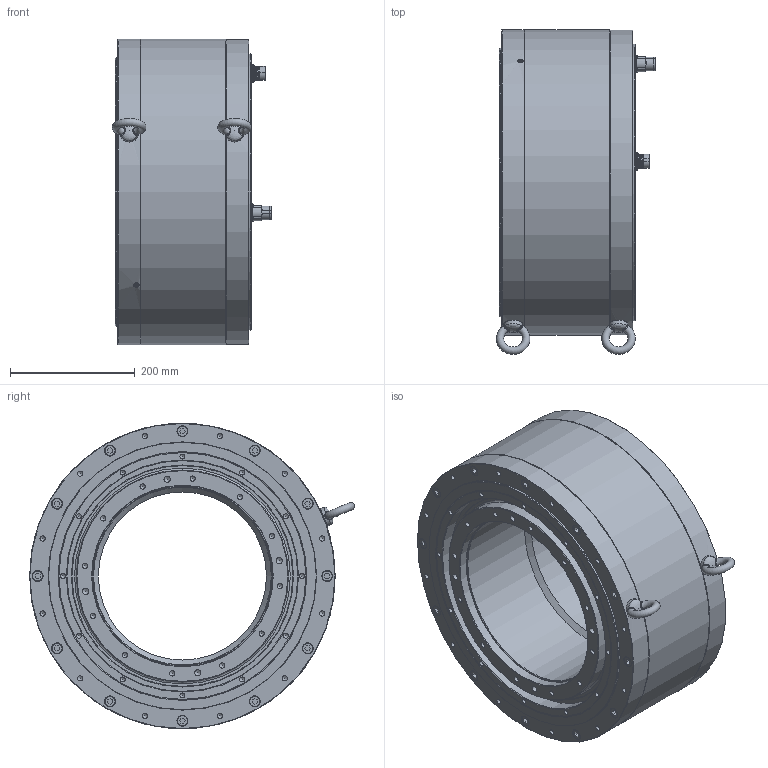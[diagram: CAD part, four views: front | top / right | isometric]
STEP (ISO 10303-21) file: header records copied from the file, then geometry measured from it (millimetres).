
FILE_DESCRIPTION( ( 'Unknown' ), '1' );
FILE_NAME( 'Q:/SKA DDR in acciaio/WEB File/SKA RT 430/3D/430CC037.stp', 'Unknown', ( 'Unknown' ), ( 'Unknown' ), 'PSStep 14.0', 'Unknown', ' ' );
FILE_SCHEMA( ( 'AUTOMOTIVE_DESIGN { 1 0 10303 214 1 1 1 1 }' ) );
Length unit declared in the file: millimetre
Products named in the file (17): Assem1; CN M23 PAN-POT BEGA 120 4 + 4 pin SpTcR; CN M23 PAN-SEG AEGA 139 17 pin SpTcR; 430VV006; Vite a brugola testa cil 8,8 -  M 2,5 x 8; Vite a brugola testa cil 12,9 -  M 10 x 50; Anello OR 3,53 D430,66-41700-oa0; Anello OR 3,53 D430,66-41700-oa1; Anello OR 3,53 D380,6-41500-oa2; Vite a brugola testa svasata 10,9 -  M  4 x 16; 430FF010; 430FC001; 430FP003; Golfare Maschio M12; Grano senza punta M  6 x 10; 430FS025; 430GG011
Assembly tree (53 placements, depth 2):
  Assem1
    CN M23 PAN-POT BEGA 120 4 + 4 pin SpTcR
    CN M23 PAN-SEG AEGA 139 17 pin SpTcR
    430VV006
    Vite a brugola testa cil 8,8 -  M 2,5 x 8  x8
    Vite a brugola testa cil 12,9 -  M 10 x 50  x24
    Anello OR 3,53 D430,66-41700-oa0
    Anello OR 3,53 D430,66-41700-oa1
    Anello OR 3,53 D380,6-41500-oa2
    Vite a brugola testa svasata 10,9 -  M  4 x 16  x6
    430FF010
    430FC001
    430FP003
    Golfare Maschio M12  x2
    Grano senza punta M  6 x 10  x2
    430FS025
    430GG011
Bounding box: 255.48 x 520.73 x 490 mm (x, y, z)
Volume: 17287883.5 mm3; surface area: 2170292.7 mm2
Topology: 53 solids, 53 shells, 1283 faces, 2927 edges, 1907 vertices
Faces by surface type: plane 555, cylinder 451, cone 221, torus 38, sphere 8, bspline 8, revolution 2
Full cylindrical faces by diameter (mm): 1.5 x4, 2 x17, 2.013 x8, 2.5 x12, 2.7 x4, 2.8 x4, 3.242 x16, 3.4 x6, 4 x8, 4.134 x12, 4.5 x6, 4.7 x8, 4.917 x2, 6 x2, 8 x12, 8.376 x96, 8.5 x12, 9 x2, 10 x32, 10.106 x4, 10.5 x36, 11 x2, 12 x2, 16 x24, 17 x2, 17.5 x24, 19.8 x2, 20 x3, 21 x2, 21.5 x2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
Entity records: 26073 total; most frequent: CARTESIAN_POINT 5151, DIRECTION 3467, ORIENTED_EDGE 2122, AXIS2_PLACEMENT_3D 1618, EDGE_LOOP 1568, FACE_OUTER_BOUND 1152, EDGE_CURVE 1061, VERTEX_POINT 1046
